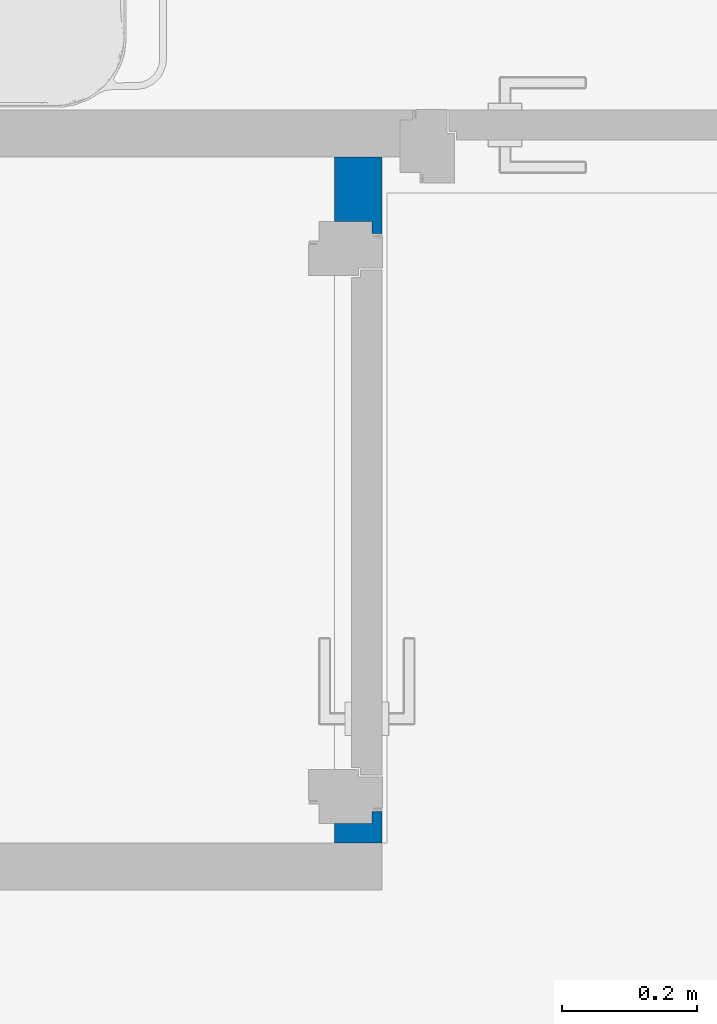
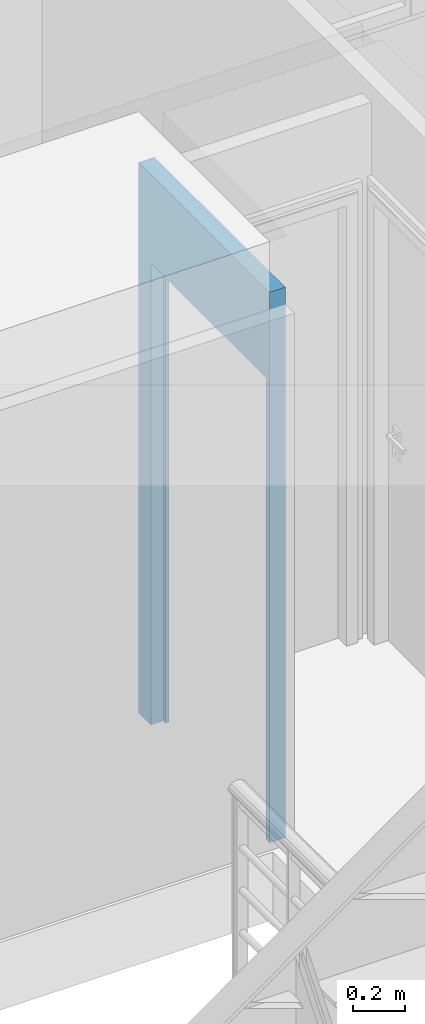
# One storey, part 41 of 61: 1 wall, 1 opening.
"""IFC2X3 building model written with IfcOpenShell, lengths in metres."""

from ifc_helpers import new_model, entity, si_unit, converted_unit, derived_unit, direction, frame, frame_2d, origin, place, context, subcontext, project, spatial, rectangle, extrude, faceted_brep, material, layer, layer_set, layer_usage, type_object, element, save


model = new_model("IFC2X3")

# Units and contexts
model_context = context("Model", 3, precision=1e-05, world=origin(), true_north=direction((6.12303176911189e-17, 1.0)))
body_context = subcontext(model_context, "Body", "Model", "MODEL_VIEW")
ifc_project = project(units=[si_unit("LENGTHUNIT", "METRE"), si_unit("AREAUNIT", "SQUARE_METRE"), si_unit("VOLUMEUNIT", "CUBIC_METRE"), converted_unit("PLANEANGLEUNIT", "DEGREE", entity("IfcRatioMeasure", 0.0174532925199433), si_unit("PLANEANGLEUNIT", "RADIAN"), dimensions=[0, 0, 0, 0, 0, 0, 0]), si_unit("MASSUNIT", "GRAM", prefix="KILO"), derived_unit("MASSDENSITYUNIT", [(si_unit("MASSUNIT", "GRAM", prefix="KILO"), 1), (si_unit("LENGTHUNIT", "METRE"), -3)]), si_unit("TIMEUNIT", "SECOND"), si_unit("FREQUENCYUNIT", "HERTZ"), si_unit("THERMODYNAMICTEMPERATUREUNIT", "DEGREE_CELSIUS"), derived_unit("THERMALTRANSMITTANCEUNIT", [(si_unit("MASSUNIT", "GRAM", prefix="KILO"), 1), (si_unit("THERMODYNAMICTEMPERATUREUNIT", "KELVIN"), -1), (si_unit("TIMEUNIT", "SECOND"), -3)]), derived_unit("VOLUMETRICFLOWRATEUNIT", [(si_unit("LENGTHUNIT", "METRE"), 3), (si_unit("TIMEUNIT", "SECOND"), -1)]), si_unit("ELECTRICCURRENTUNIT", "AMPERE"), si_unit("ELECTRICVOLTAGEUNIT", "VOLT"), si_unit("POWERUNIT", "WATT"), si_unit("FORCEUNIT", "NEWTON", prefix="KILO"), si_unit("ILLUMINANCEUNIT", "LUX"), si_unit("LUMINOUSFLUXUNIT", "LUMEN"), si_unit("LUMINOUSINTENSITYUNIT", "CANDELA"), derived_unit("USERDEFINED", [(si_unit("MASSUNIT", "GRAM", prefix="KILO"), -1), (si_unit("LENGTHUNIT", "METRE"), -2), (si_unit("TIMEUNIT", "SECOND"), 3), (si_unit("LUMINOUSFLUXUNIT", "LUMEN"), 1)]), derived_unit("LINEARVELOCITYUNIT", [(si_unit("LENGTHUNIT", "METRE"), 1), (si_unit("TIMEUNIT", "SECOND"), -1)]), si_unit("PRESSUREUNIT", "PASCAL"), derived_unit("USERDEFINED", [(si_unit("LENGTHUNIT", "METRE"), -2), (si_unit("MASSUNIT", "GRAM", prefix="KILO"), 1), (si_unit("TIMEUNIT", "SECOND"), -2)])], contexts=[model_context])

# Site, building, storey
site_placement = place(None, origin())
site = spatial("IfcSite", under=ifc_project, at=site_placement, Name="Surface", CompositionType="ELEMENT")
building_placement = place(site_placement, origin())
building = spatial("IfcBuilding", under=site, at=building_placement, CompositionType="ELEMENT")
storey_placement = place(building_placement, frame((0.0, 0.0, 2.82)))
storey = spatial("IfcBuildingStorey", under=building, at=storey_placement, Name="ETAGE", CompositionType="ELEMENT", Elevation=2.82)

# Wall, opening
ifc_material = material(Name="Peinture - Blanc")
ifc_layer = layer(ifc_material, 0.07)
ifc_layer_set = layer_set([ifc_layer], Name="Mur de base:Int.  Platre 70 mm en blanc")
ifc_layer_usage = layer_usage(ifc_layer_set, "AXIS2", "NEGATIVE", 0.035)
wall_type = type_object("IfcWallType", Name="Mur de base:Int.  Platre 70 mm en blanc", PredefinedType="STANDARD", material=ifc_layer_set)
wall_placement = place(storey_placement, frame((86.4734515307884, 88.5842045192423, 0.0), z_axis=(0.0, 0.0, 1.0), x_axis=(0.0, 1.0, 0.0)))
wall = element("IfcWallStandardCase", 1, at=wall_placement, inside=storey, type_object=wall_type, material=ifc_layer_usage, Name="Mur de base:Int.  Platre 70 mm en blanc", ObjectType="Mur de base:Int.  Platre 70 mm en blanc", context=body_context, shape_type="SweptSolid", body=[
    extrude(rectangle(XDim=1.01331944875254, YDim=0.0699999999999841, at=frame_2d((0.506659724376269, 0.0), x_axis=(-1.0, 0.0))), origin(), (0.0, 0.0, 1.0), 2.6),
])
opening_placement = place(wall_placement, frame((0.0283194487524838, 0.678399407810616, 0.0), z_axis=(0.0, 0.0, 1.0), x_axis=(0.0, -1.0, 0.0)))
element("IfcOpeningElement", 2, at=opening_placement, cuts=wall, Name="Mur de base:Int.  Platre 70 mm en blanc", ObjectType="Opening", context=body_context, shape_type="Brep", body=[
    faceted_brep([(0.893399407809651, 0.810000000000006, 2.09999999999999), (0.893399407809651, 0.0799999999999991, 2.09999999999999), (0.893399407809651, 0.0799999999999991, 0.0), (0.893399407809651, 0.810000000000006, 0.0), (0.0, 0.810000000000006, 2.09999999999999), (0.0, 0.810000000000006, 0.0), (0.0, 0.0799999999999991, 0.0), (0.0, 0.0799999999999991, 2.09999999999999), (0.71339940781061, 0.810000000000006, 0.0), (0.71339940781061, 0.810000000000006, 2.09999999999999), (0.713399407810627, 0.0799999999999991, 0.0), (0.713399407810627, 0.0180000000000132, 0.0), (0.698399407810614, 0.0180000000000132, 0.0), (0.698399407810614, 0.0, 0.0), (0.620399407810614, 0.0, 0.0), (0.620399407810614, 0.0290000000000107, 0.0), (0.643399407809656, 0.0290000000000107, 0.0), (0.643399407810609, 0.0800000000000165, 0.0), (0.643399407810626, 0.810000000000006, 0.0), (0.643399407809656, 0.860999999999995, 0.0), (0.620399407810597, 0.860999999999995, 0.0), (0.620399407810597, 0.890000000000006, 0.0), (0.698399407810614, 0.890000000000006, 0.0), (0.698399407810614, 0.871999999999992, 0.0), (0.713399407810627, 0.871999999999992, 0.0), (0.71339940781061, 0.0800000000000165, 2.09999999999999), (0.643399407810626, 0.810000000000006, 2.09999999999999), (0.643399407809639, 0.821000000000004, 2.09999999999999), (0.643399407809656, 0.821000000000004, 2.11099999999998), (0.643399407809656, 0.069000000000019, 2.11099999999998), (0.643399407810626, 0.069000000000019, 2.09999999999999), (0.643399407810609, 0.0800000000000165, 2.09999999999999), (0.643399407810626, 0.0290000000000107, 2.15099999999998), (0.643399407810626, 0.860999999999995, 2.15099999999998), (0.713399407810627, 0.87200000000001, 2.16199999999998), (0.713399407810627, 0.0180000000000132, 2.16199999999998), (0.642899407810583, 0.821000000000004, 2.09999999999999), (0.642899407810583, 0.821000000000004, 2.11099999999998), (0.6428994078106, 0.069000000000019, 2.11099999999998), (0.6428994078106, 0.069000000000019, 2.09999999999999), (0.642899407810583, 0.810000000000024, 2.09999999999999), (0.642899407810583, 0.0800000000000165, 2.09999999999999), (0.698399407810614, 0.87200000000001, 2.16199999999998), (0.698399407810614, 0.890000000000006, 2.17999999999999), (0.698399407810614, 0.0, 2.17999999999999), (0.698399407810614, 0.0180000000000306, 2.16199999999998), (0.620399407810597, 0.890000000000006, 2.17999999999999), (0.620399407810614, 0.860999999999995, 2.15099999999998), (0.620399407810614, 0.0290000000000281, 2.15099999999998), (0.620399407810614, 0.0, 2.17999999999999)], [[[0, 1, 2, 3]], [[4, 5, 6, 7]], [[0, 3, 8, 9]], [[3, 2, 10, 11, 12, 13, 14, 15, 16, 17, 6, 5, 18, 19, 20, 21, 22, 23, 24, 8]], [[2, 1, 25, 10]], [[1, 0, 9, 25]], [[19, 18, 26, 27, 28, 29, 30, 31, 17, 16, 32, 33]], [[8, 24, 34, 35, 11, 10, 25, 9]], [[36, 37, 28, 27]], [[38, 39, 30, 29]], [[37, 38, 29, 28]], [[39, 38, 37, 36, 40, 41]], [[40, 36, 27, 26]], [[24, 23, 42, 34]], [[23, 22, 43, 44, 13, 12, 45, 42]], [[22, 21, 46, 43]], [[21, 20, 47, 48, 15, 14, 49, 46]], [[20, 19, 33, 47]], [[35, 34, 42, 45]], [[44, 43, 46, 49]], [[33, 32, 48, 47]], [[11, 35, 45, 12]], [[13, 44, 49, 14]], [[32, 16, 15, 48]], [[39, 41, 31, 30]], [[4, 7, 41, 40]], [[7, 6, 17, 31, 41]], [[5, 4, 40, 26, 18]]]),
])

save(model, "model.ifc")
